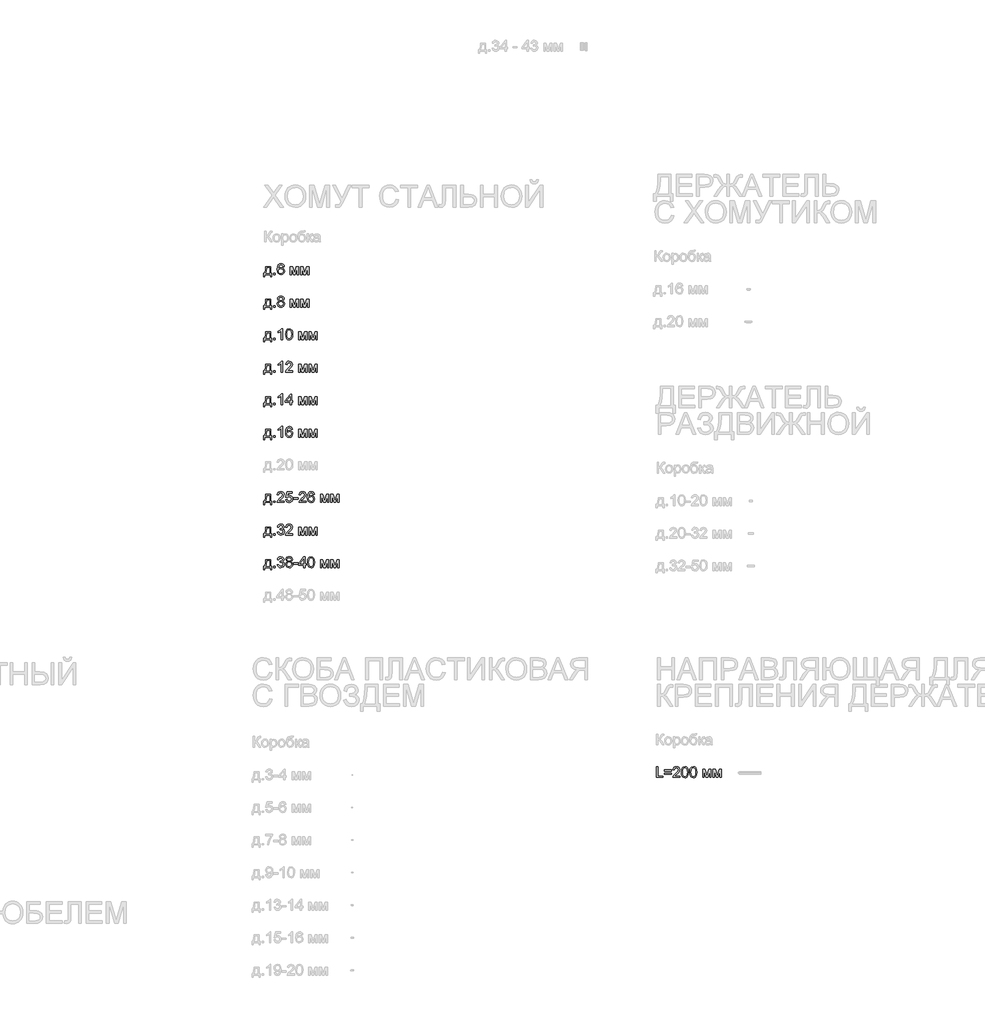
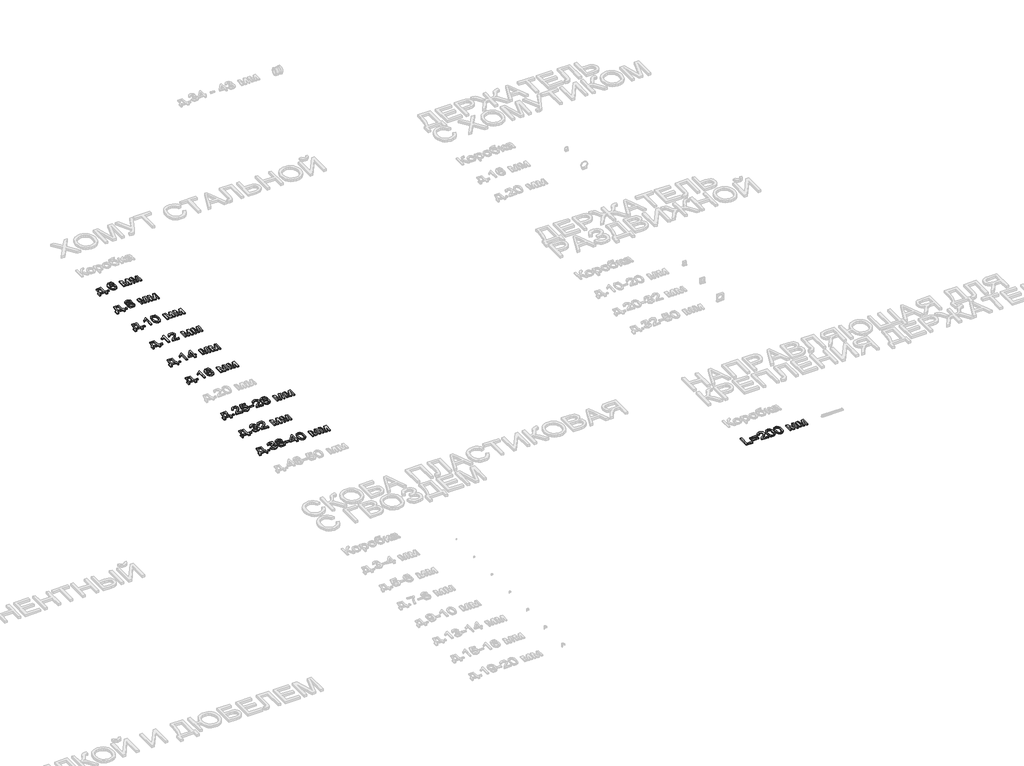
# One storey, part 48 of 98: 10 proxies.
"""IFC4 building model written with IfcOpenShell, lengths in millimetres."""

from ifc_helpers import new_model, si_unit, origin, origin_with_axes, place, context, project, spatial, polyline, outline, extrude, element, save

model = new_model("IFC4")

# Units and contexts
model_context = context("Model", 3, world=origin())
ifc_project = project(units=[si_unit("LENGTHUNIT", "METRE", prefix="MILLI")], contexts=[model_context])

# Site, building, storey
site = spatial("IfcSite", under=ifc_project)
building = spatial("IfcBuilding", under=site)
storey = spatial("IfcBuildingStorey", under=building, Name="Этаж 01", Elevation=0.0)

# Proxies
placement = place(None, origin())
element("IfcBuildingElementProxy", 1, Name="100", ObjectType="100", at=placement, inside=storey, context=model_context, shape_type="SweptSolid", body=[
    extrude(outline(polyline([(16052.0758798, -36915.5625308), (16052.0758798, -36815.1062206), (16064.6329186, -36815.1062206), (16064.6329186, -36903.005492), (16114.8610736, -36903.005492), (16114.8610736, -36915.5625308), (16052.0758798, -36915.5625308)])), origin_with_axes(), (0.0, 0.0, 1.0), 10.0),
    extrude(outline(polyline([(16191.7729361, -36887.3091935), (16125.8484826, -36887.3091935), (16125.8484826, -36874.7521548), (16191.7729361, -36874.7521548), (16191.7729361, -36887.3091935)])), origin_with_axes(), (0.0, 0.0, 1.0), 10.0),
    extrude(outline(polyline([(16191.7729361, -36857.4862265), (16125.8484826, -36857.4862265), (16125.8484826, -36844.9291877), (16191.7729361, -36844.9291877), (16191.7729361, -36857.4862265)])), origin_with_axes(), (0.0, 0.0, 1.0), 10.0),
    extrude(outline(polyline([(16270.2544284, -36903.005492), (16270.2544284, -36915.5625308), (16204.3299749, -36915.5625308), (16205.6788755, -36906.9050411), (16213.3062955, -36893.5754502), (16229.0271195, -36879.0195859), (16250.7076317, -36858.0993631), (16256.1277598, -36843.8745926), (16251.0142001, -36832.3598862), (16237.6600836, -36827.6632594), (16223.7418815, -36832.2495216), (16218.4566435, -36844.9291877), (16205.8996047, -36843.3595578), (16208.9438282, -36831.2133206), (16215.5258502, -36822.3412332), (16225.3023143, -36816.9149738), (16237.9298638, -36815.1062206), (16250.6493837, -36817.1173089), (16260.4074537, -36823.1505736), (16266.6154623, -36832.1636825), (16268.6847986, -36843.1143032), (16266.4529811, -36855.0214171), (16259.0340275, -36867.3332012), (16241.044598, -36884.5378158), (16226.5990983, -36896.616608), (16220.9337156, -36903.005492), (16270.2544284, -36903.005492)])), origin_with_axes(), (0.0, 0.0, 1.0), 10.0),
    extrude(outline(polyline([(16282.8114672, -36866.1437161), (16286.5025499, -36837.240454), (16297.4654333, -36820.5753996), (16315.7736939, -36815.1062206), (16330.4399228, -36818.3435822), (16340.5689404, -36827.6755221), (16346.4550523, -36842.5379547), (16348.7359207, -36866.1437161), (16345.0816262, -36894.9243508), (16334.155531, -36911.6261934), (16325.9241713, -36915.7556688), (16315.7736939, -36917.1321606), (16302.7261458, -36914.7409276), (16292.8178574, -36907.5672287), (16285.3130647, -36890.5772119), (16282.8114672, -36866.1437161)]), holes=[polyline([(16295.3685059, -36866.1191906), (16296.8400339, -36885.8713881), (16301.2546179, -36897.3033211), (16307.8274428, -36902.7571717), (16315.7736939, -36904.5751218), (16323.719945, -36902.7510403), (16330.29277, -36897.2787956), (16334.707354, -36885.8407312), (16336.1788819, -36866.1191906), (16334.7564049, -36846.8115172), (16330.4889737, -36835.2906794), (16323.9284115, -36829.5701144), (16315.6265411, -36827.6632594), (16307.7661292, -36829.3432538), (16301.4508216, -36834.3832372), (16296.8890848, -36846.6214449), (16295.3685059, -36866.1191906)])]), origin_with_axes(), (0.0, 0.0, 1.0), 10.0),
    extrude(outline(polyline([(16359.7233296, -36866.1437161), (16363.4144123, -36837.240454), (16374.3772958, -36820.5753996), (16392.6855564, -36815.1062206), (16407.3517853, -36818.3435822), (16417.4808029, -36827.6755221), (16423.3669148, -36842.5379547), (16425.6477832, -36866.1437161), (16421.9934887, -36894.9243508), (16411.0673934, -36911.6261934), (16402.8360338, -36915.7556688), (16392.6855564, -36917.1321606), (16379.6380083, -36914.7409276), (16369.7297199, -36907.5672287), (16362.2249272, -36890.5772119), (16359.7233296, -36866.1437161)]), holes=[polyline([(16372.2803684, -36866.1191906), (16373.7518964, -36885.8713881), (16378.1664803, -36897.3033211), (16384.7393053, -36902.7571717), (16392.6855564, -36904.5751218), (16400.6318075, -36902.7510403), (16407.2046325, -36897.2787956), (16411.6192164, -36885.8407312), (16413.0907444, -36866.1191906), (16411.6682673, -36846.8115172), (16407.4008362, -36835.2906794), (16400.840274, -36829.5701144), (16392.5384036, -36827.6632594), (16384.6779916, -36829.3432538), (16378.362684, -36834.3832372), (16373.8009473, -36846.6214449), (16372.2803684, -36866.1191906)])]), origin_with_axes(), (0.0, 0.0, 1.0), 10.0),
    extrude(outline(polyline([(16479.0151979, -36841.789928), (16500.6221338, -36841.789928), (16517.2749254, -36900.847251), (16535.2275668, -36841.789928), (16555.9270604, -36841.789928), (16555.9270604, -36915.5625308), (16543.3700216, -36915.5625308), (16543.3700216, -36856.1618513), (16525.3192784, -36915.5625308), (16508.838165, -36915.5625308), (16491.5722367, -36853.3168972), (16491.5722367, -36915.5625308), (16479.0151979, -36915.5625308), (16479.0151979, -36841.789928)])), origin_with_axes(), (0.0, 0.0, 1.0), 10.0),
    extrude(outline(polyline([(16574.7626185, -36841.789928), (16596.3695544, -36841.789928), (16613.022346, -36900.847251), (16630.9749874, -36841.789928), (16651.674481, -36841.789928), (16651.674481, -36915.5625308), (16639.1174422, -36915.5625308), (16639.1174422, -36856.1618513), (16621.066699, -36915.5625308), (16604.5855856, -36915.5625308), (16587.3196573, -36853.3168972), (16587.3196573, -36915.5625308), (16574.7626185, -36915.5625308), (16574.7626185, -36841.789928)])), origin_with_axes(), (0.0, 0.0, 1.0), 10.0),
])
element("IfcBuildingElementProxy", 2, Name="100", ObjectType="100", at=placement, inside=storey, context=model_context, shape_type="SweptSolid", body=[
    extrude(outline(polyline([(12451.0393687, -32807.7143815), (12498.1282641, -32807.7143815), (12498.1282641, -32868.9299455), (12507.5460431, -32868.9299455), (12507.5460431, -32901.8921723), (12494.9890044, -32901.8921723), (12494.9890044, -32881.4869843), (12443.1912195, -32881.4869843), (12443.1912195, -32901.8921723), (12430.6341807, -32901.8921723), (12430.6341807, -32868.9299455), (12438.4823299, -32868.9299455), (12448.1821519, -32844.9808276), (12451.0393687, -32807.7143815)]), holes=[polyline([(12462.0267776, -32820.2714203), (12459.0837216, -32848.8803768), (12452.6089985, -32868.9299455), (12485.5712253, -32868.9299455), (12485.5712253, -32820.2714203), (12462.0267776, -32820.2714203)])]), origin_with_axes(), (0.0, 0.0, 1.0), 10.0),
    extrude(outline(polyline([(12524.8119715, -32881.4869843), (12524.8119715, -32868.9299455), (12537.3690102, -32868.9299455), (12537.3690102, -32881.4869843), (12524.8119715, -32881.4869843)])), origin_with_axes(), (0.0, 0.0, 1.0), 10.0),
    extrude(outline(polyline([(12604.8630936, -32881.4869843), (12592.3060548, -32881.4869843), (12592.3060548, -32803.2016957), (12580.4112037, -32811.6752444), (12567.1919773, -32818.0150774), (12567.1919773, -32806.1447517), (12585.5983398, -32794.3970533), (12596.7696897, -32781.0306742), (12604.8630936, -32781.0306742), (12604.8630936, -32881.4869843)])), origin_with_axes(), (0.0, 0.0, 1.0), 10.0),
    extrude(outline(polyline([(12634.6860607, -32832.0681696), (12638.3771434, -32803.1649075), (12649.3400268, -32786.4998531), (12667.6482874, -32781.0306742), (12682.3145163, -32784.2680357), (12692.4435339, -32793.5999757), (12698.3296458, -32808.4624083), (12700.6105142, -32832.0681696), (12696.9562197, -32860.8488044), (12686.0301245, -32877.550647), (12677.7987648, -32881.6801224), (12667.6482874, -32883.0566141), (12654.6007393, -32880.6653812), (12644.6924509, -32873.4916823), (12637.1876582, -32856.5016655), (12634.6860607, -32832.0681696)]), holes=[polyline([(12647.2430994, -32832.0436442), (12648.7146274, -32851.7958416), (12653.1292114, -32863.2277746), (12659.7020363, -32868.6816252), (12667.6482874, -32870.4995754), (12675.5945385, -32868.6754938), (12682.1673635, -32863.2032491), (12686.5819475, -32851.7651848), (12688.0534754, -32832.0436442), (12686.6309984, -32812.7359708), (12682.3635673, -32801.215133), (12675.803005, -32795.4945679), (12667.5011346, -32793.5877129), (12659.6407227, -32795.2677074), (12653.3254151, -32800.3076907), (12648.7636784, -32812.5458984), (12647.2430994, -32832.0436442)])]), origin_with_axes(), (0.0, 0.0, 1.0), 10.0),
    extrude(outline(polyline([(12753.977929, -32807.7143815), (12775.5848648, -32807.7143815), (12792.2376565, -32866.7717045), (12810.1902978, -32807.7143815), (12830.8897914, -32807.7143815), (12830.8897914, -32881.4869843), (12818.3327527, -32881.4869843), (12818.3327527, -32822.0863048), (12800.2820094, -32881.4869843), (12783.8008961, -32881.4869843), (12766.5349677, -32819.2413507), (12766.5349677, -32881.4869843), (12753.977929, -32881.4869843), (12753.977929, -32807.7143815)])), origin_with_axes(), (0.0, 0.0, 1.0), 10.0),
    extrude(outline(polyline([(12849.7253496, -32807.7143815), (12871.3322854, -32807.7143815), (12887.9850771, -32866.7717045), (12905.9377185, -32807.7143815), (12926.637212, -32807.7143815), (12926.637212, -32881.4869843), (12914.0801733, -32881.4869843), (12914.0801733, -32822.0863048), (12896.0294301, -32881.4869843), (12879.5483167, -32881.4869843), (12862.2823884, -32819.2413507), (12862.2823884, -32881.4869843), (12849.7253496, -32881.4869843), (12849.7253496, -32807.7143815)])), origin_with_axes(), (0.0, 0.0, 1.0), 10.0),
])
element("IfcBuildingElementProxy", 3, Name="100", ObjectType="100", at=placement, inside=storey, context=model_context, shape_type="SweptSolid", body=[
    extrude(outline(polyline([(12451.0393687, -33107.7143815), (12498.1282641, -33107.7143815), (12498.1282641, -33168.9299455), (12507.5460431, -33168.9299455), (12507.5460431, -33201.8921723), (12494.9890044, -33201.8921723), (12494.9890044, -33181.4869843), (12443.1912195, -33181.4869843), (12443.1912195, -33201.8921723), (12430.6341807, -33201.8921723), (12430.6341807, -33168.9299455), (12438.4823299, -33168.9299455), (12448.1821519, -33144.9808276), (12451.0393687, -33107.7143815)]), holes=[polyline([(12462.0267776, -33120.2714203), (12459.0837216, -33148.8803768), (12452.6089985, -33168.9299455), (12485.5712253, -33168.9299455), (12485.5712253, -33120.2714203), (12462.0267776, -33120.2714203)])]), origin_with_axes(), (0.0, 0.0, 1.0), 10.0),
    extrude(outline(polyline([(12524.8119715, -33181.4869843), (12524.8119715, -33168.9299455), (12537.3690102, -33168.9299455), (12537.3690102, -33181.4869843), (12524.8119715, -33181.4869843)])), origin_with_axes(), (0.0, 0.0, 1.0), 10.0),
    extrude(outline(polyline([(12604.8630936, -33181.4869843), (12592.3060548, -33181.4869843), (12592.3060548, -33103.2016957), (12580.4112037, -33111.6752444), (12567.1919773, -33118.0150774), (12567.1919773, -33106.1447517), (12585.5983398, -33094.3970533), (12596.7696897, -33081.0306742), (12604.8630936, -33081.0306742), (12604.8630936, -33181.4869843)])), origin_with_axes(), (0.0, 0.0, 1.0), 10.0),
    extrude(outline(polyline([(12699.0408844, -33168.9299455), (12699.0408844, -33181.4869843), (12633.1164308, -33181.4869843), (12634.4653315, -33172.8294947), (12642.0927515, -33159.4999037), (12657.8135754, -33144.9440394), (12679.4940877, -33124.0238167), (12684.9142158, -33109.7990462), (12679.800656, -33098.2843397), (12666.4465396, -33093.5877129), (12652.5283374, -33098.1739751), (12647.2430994, -33110.8536412), (12634.6860607, -33109.2840114), (12637.7302842, -33097.1377742), (12644.3123062, -33088.2656867), (12654.0887702, -33082.8394273), (12666.7163197, -33081.0306742), (12679.4358397, -33083.0417624), (12689.1939096, -33089.0750271), (12695.4019183, -33098.088136), (12697.4712545, -33109.0387567), (12695.2394371, -33120.9458706), (12687.8204835, -33133.2576547), (12669.8310539, -33150.4622694), (12655.3855543, -33162.5410616), (12649.7201715, -33168.9299455), (12699.0408844, -33168.9299455)])), origin_with_axes(), (0.0, 0.0, 1.0), 10.0),
    extrude(outline(polyline([(12753.977929, -33107.7143815), (12775.5848648, -33107.7143815), (12792.2376565, -33166.7717045), (12810.1902978, -33107.7143815), (12830.8897914, -33107.7143815), (12830.8897914, -33181.4869843), (12818.3327527, -33181.4869843), (12818.3327527, -33122.0863048), (12800.2820094, -33181.4869843), (12783.8008961, -33181.4869843), (12766.5349677, -33119.2413507), (12766.5349677, -33181.4869843), (12753.977929, -33181.4869843), (12753.977929, -33107.7143815)])), origin_with_axes(), (0.0, 0.0, 1.0), 10.0),
    extrude(outline(polyline([(12849.7253496, -33107.7143815), (12871.3322854, -33107.7143815), (12887.9850771, -33166.7717045), (12905.9377185, -33107.7143815), (12926.637212, -33107.7143815), (12926.637212, -33181.4869843), (12914.0801733, -33181.4869843), (12914.0801733, -33122.0863048), (12896.0294301, -33181.4869843), (12879.5483167, -33181.4869843), (12862.2823884, -33119.2413507), (12862.2823884, -33181.4869843), (12849.7253496, -33181.4869843), (12849.7253496, -33107.7143815)])), origin_with_axes(), (0.0, 0.0, 1.0), 10.0),
])
element("IfcBuildingElementProxy", 4, Name="100", ObjectType="100", at=placement, inside=storey, context=model_context, shape_type="SweptSolid", body=[
    extrude(outline(polyline([(12451.0393687, -33407.7143815), (12498.1282641, -33407.7143815), (12498.1282641, -33468.9299455), (12507.5460431, -33468.9299455), (12507.5460431, -33501.8921723), (12494.9890044, -33501.8921723), (12494.9890044, -33481.4869843), (12443.1912195, -33481.4869843), (12443.1912195, -33501.8921723), (12430.6341807, -33501.8921723), (12430.6341807, -33468.9299455), (12438.4823299, -33468.9299455), (12448.1821519, -33444.9808276), (12451.0393687, -33407.7143815)]), holes=[polyline([(12462.0267776, -33420.2714203), (12459.0837216, -33448.8803768), (12452.6089985, -33468.9299455), (12485.5712253, -33468.9299455), (12485.5712253, -33420.2714203), (12462.0267776, -33420.2714203)])]), origin_with_axes(), (0.0, 0.0, 1.0), 10.0),
    extrude(outline(polyline([(12524.8119715, -33481.4869843), (12524.8119715, -33468.9299455), (12537.3690102, -33468.9299455), (12537.3690102, -33481.4869843), (12524.8119715, -33481.4869843)])), origin_with_axes(), (0.0, 0.0, 1.0), 10.0),
    extrude(outline(polyline([(12604.8630936, -33481.4869843), (12592.3060548, -33481.4869843), (12592.3060548, -33403.2016957), (12580.4112037, -33411.6752444), (12567.1919773, -33418.0150774), (12567.1919773, -33406.1447517), (12585.5983398, -33394.3970533), (12596.7696897, -33381.0306742), (12604.8630936, -33381.0306742), (12604.8630936, -33481.4869843)])), origin_with_axes(), (0.0, 0.0, 1.0), 10.0),
    extrude(outline(polyline([(12675.4964367, -33481.4869843), (12675.4964367, -33457.9425366), (12629.9771711, -33457.9425366), (12629.9771711, -33445.3854978), (12678.6356964, -33382.600304), (12688.0534754, -33382.600304), (12688.0534754, -33445.3854978), (12700.6105142, -33445.3854978), (12700.6105142, -33457.9425366), (12688.0534754, -33457.9425366), (12688.0534754, -33481.4869843), (12675.4964367, -33481.4869843)]), holes=[polyline([(12675.4964367, -33445.3854978), (12675.4964367, -33406.5862101), (12645.4282149, -33445.3854978), (12675.4964367, -33445.3854978)])]), origin_with_axes(), (0.0, 0.0, 1.0), 10.0),
    extrude(outline(polyline([(12753.977929, -33407.7143815), (12775.5848648, -33407.7143815), (12792.2376565, -33466.7717045), (12810.1902978, -33407.7143815), (12830.8897914, -33407.7143815), (12830.8897914, -33481.4869843), (12818.3327527, -33481.4869843), (12818.3327527, -33422.0863048), (12800.2820094, -33481.4869843), (12783.8008961, -33481.4869843), (12766.5349677, -33419.2413507), (12766.5349677, -33481.4869843), (12753.977929, -33481.4869843), (12753.977929, -33407.7143815)])), origin_with_axes(), (0.0, 0.0, 1.0), 10.0),
    extrude(outline(polyline([(12849.7253496, -33407.7143815), (12871.3322854, -33407.7143815), (12887.9850771, -33466.7717045), (12905.9377185, -33407.7143815), (12926.637212, -33407.7143815), (12926.637212, -33481.4869843), (12914.0801733, -33481.4869843), (12914.0801733, -33422.0863048), (12896.0294301, -33481.4869843), (12879.5483167, -33481.4869843), (12862.2823884, -33419.2413507), (12862.2823884, -33481.4869843), (12849.7253496, -33481.4869843), (12849.7253496, -33407.7143815)])), origin_with_axes(), (0.0, 0.0, 1.0), 10.0),
])
element("IfcBuildingElementProxy", 5, Name="100", ObjectType="100", at=placement, inside=storey, context=model_context, shape_type="SweptSolid", body=[
    extrude(outline(polyline([(12451.0393687, -33707.7143815), (12498.1282641, -33707.7143815), (12498.1282641, -33768.9299455), (12507.5460431, -33768.9299455), (12507.5460431, -33801.8921723), (12494.9890044, -33801.8921723), (12494.9890044, -33781.4869843), (12443.1912195, -33781.4869843), (12443.1912195, -33801.8921723), (12430.6341807, -33801.8921723), (12430.6341807, -33768.9299455), (12438.4823299, -33768.9299455), (12448.1821519, -33744.9808276), (12451.0393687, -33707.7143815)]), holes=[polyline([(12462.0267776, -33720.2714203), (12459.0837216, -33748.8803768), (12452.6089985, -33768.9299455), (12485.5712253, -33768.9299455), (12485.5712253, -33720.2714203), (12462.0267776, -33720.2714203)])]), origin_with_axes(), (0.0, 0.0, 1.0), 10.0),
    extrude(outline(polyline([(12524.8119715, -33781.4869843), (12524.8119715, -33768.9299455), (12537.3690102, -33768.9299455), (12537.3690102, -33781.4869843), (12524.8119715, -33781.4869843)])), origin_with_axes(), (0.0, 0.0, 1.0), 10.0),
    extrude(outline(polyline([(12604.8630936, -33781.4869843), (12592.3060548, -33781.4869843), (12592.3060548, -33703.2016957), (12580.4112037, -33711.6752444), (12567.1919773, -33718.0150774), (12567.1919773, -33706.1447517), (12585.5983398, -33694.3970533), (12596.7696897, -33681.0306742), (12604.8630936, -33681.0306742), (12604.8630936, -33781.4869843)])), origin_with_axes(), (0.0, 0.0, 1.0), 10.0),
    extrude(outline(polyline([(12699.0408844, -33707.7143815), (12686.4838456, -33709.2840114), (12681.7259051, -33698.8116373), (12669.1443409, -33693.5877129), (12657.8135754, -33696.6288707), (12649.241925, -33708.0454753), (12645.6734696, -33730.4249634), (12656.7467177, -33720.4063104), (12670.4687161, -33717.1321606), (12682.0692617, -33719.3701094), (12691.8058718, -33726.0839558), (12698.4093536, -33736.3417321), (12700.6105142, -33749.2114706), (12696.4657104, -33766.5387126), (12685.0613685, -33778.8014457), (12668.6047806, -33783.0566141), (12654.3585504, -33780.2361855), (12643.0124565, -33771.7748996), (12635.5904372, -33756.8388906), (12633.1164308, -33734.5942927), (12635.8632831, -33709.5844483), (12644.1038398, -33692.4840669), (12655.3548974, -33683.8940223), (12669.9291558, -33681.0306742), (12680.9472216, -33682.8026391), (12689.7702581, -33688.1185339), (12695.9506756, -33696.5614257), (12699.0408844, -33707.7143815)]), holes=[polyline([(12645.6734696, -33749.0152669), (12648.5797374, -33759.8923112), (12656.3052593, -33767.7895113), (12667.623762, -33770.4995754), (12675.9103039, -33769.0954924), (12682.4248809, -33764.8832436), (12686.6463268, -33758.2613677), (12688.0534754, -33749.6284035), (12686.6647209, -33741.3418616), (12682.4984573, -33735.0234883), (12675.8735157, -33731.0227716), (12667.1087272, -33729.6891994), (12651.9152008, -33735.0234883), (12647.2339024, -33741.1885774), (12645.6734696, -33749.0152669)])]), origin_with_axes(), (0.0, 0.0, 1.0), 10.0),
    extrude(outline(polyline([(12753.977929, -33707.7143815), (12775.5848648, -33707.7143815), (12792.2376565, -33766.7717045), (12810.1902978, -33707.7143815), (12830.8897914, -33707.7143815), (12830.8897914, -33781.4869843), (12818.3327527, -33781.4869843), (12818.3327527, -33722.0863048), (12800.2820094, -33781.4869843), (12783.8008961, -33781.4869843), (12766.5349677, -33719.2413507), (12766.5349677, -33781.4869843), (12753.977929, -33781.4869843), (12753.977929, -33707.7143815)])), origin_with_axes(), (0.0, 0.0, 1.0), 10.0),
    extrude(outline(polyline([(12849.7253496, -33707.7143815), (12871.3322854, -33707.7143815), (12887.9850771, -33766.7717045), (12905.9377185, -33707.7143815), (12926.637212, -33707.7143815), (12926.637212, -33781.4869843), (12914.0801733, -33781.4869843), (12914.0801733, -33722.0863048), (12896.0294301, -33781.4869843), (12879.5483167, -33781.4869843), (12862.2823884, -33719.2413507), (12862.2823884, -33781.4869843), (12849.7253496, -33781.4869843), (12849.7253496, -33707.7143815)])), origin_with_axes(), (0.0, 0.0, 1.0), 10.0),
])
element("IfcBuildingElementProxy", 6, Name="100", ObjectType="100", at=placement, inside=storey, context=model_context, shape_type="SweptSolid", body=[
    extrude(outline(polyline([(12451.0393687, -34307.7143815), (12498.1282641, -34307.7143815), (12498.1282641, -34368.9299455), (12507.5460431, -34368.9299455), (12507.5460431, -34401.8921723), (12494.9890044, -34401.8921723), (12494.9890044, -34381.4869843), (12443.1912195, -34381.4869843), (12443.1912195, -34401.8921723), (12430.6341807, -34401.8921723), (12430.6341807, -34368.9299455), (12438.4823299, -34368.9299455), (12448.1821519, -34344.9808276), (12451.0393687, -34307.7143815)]), holes=[polyline([(12462.0267776, -34320.2714203), (12459.0837216, -34348.8803768), (12452.6089985, -34368.9299455), (12485.5712253, -34368.9299455), (12485.5712253, -34320.2714203), (12462.0267776, -34320.2714203)])]), origin_with_axes(), (0.0, 0.0, 1.0), 10.0),
    extrude(outline(polyline([(12524.8119715, -34381.4869843), (12524.8119715, -34368.9299455), (12537.3690102, -34368.9299455), (12537.3690102, -34381.4869843), (12524.8119715, -34381.4869843)])), origin_with_axes(), (0.0, 0.0, 1.0), 10.0),
    extrude(outline(polyline([(12622.1290219, -34368.9299455), (12622.1290219, -34381.4869843), (12556.2045684, -34381.4869843), (12557.553469, -34372.8294947), (12565.1808891, -34359.4999037), (12580.901713, -34344.9440394), (12602.5822252, -34324.0238167), (12608.0023533, -34309.7990462), (12602.8887936, -34298.2843397), (12589.5346771, -34293.5877129), (12575.616475, -34298.1739751), (12570.331237, -34310.8536412), (12557.7741982, -34309.2840114), (12560.8184217, -34297.1377742), (12567.4004438, -34288.2656867), (12577.1769078, -34282.8394273), (12589.8044573, -34281.0306742), (12602.5239772, -34283.0417624), (12612.2820472, -34289.0750271), (12618.4900558, -34298.088136), (12620.5593921, -34309.0387567), (12618.3275746, -34320.9458706), (12610.9086211, -34333.2576547), (12592.9191915, -34350.4622694), (12578.4736918, -34362.5410616), (12572.8083091, -34368.9299455), (12622.1290219, -34368.9299455)])), origin_with_axes(), (0.0, 0.0, 1.0), 10.0),
    extrude(outline(polyline([(12634.6860607, -34354.8032769), (12647.2430994, -34353.2336471), (12653.5706698, -34366.1708306), (12666.6917943, -34370.4995754), (12675.6926404, -34368.9943249), (12682.4371437, -34364.4785734), (12686.6493925, -34357.4734871), (12688.0534754, -34348.5002321), (12682.7927629, -34333.5887485), (12676.1862154, -34329.4868643), (12666.887998, -34328.1195695), (12655.8638009, -34330.302336), (12648.8127293, -34335.9677188), (12636.2556905, -34334.3980889), (12647.2430994, -34282.600304), (12695.9016247, -34282.600304), (12695.9016247, -34295.1573428), (12657.3966425, -34295.1573428), (12652.0255654, -34322.8220688), (12660.9957547, -34317.3774153), (12670.3951397, -34315.5625308), (12682.1275096, -34317.8127423), (12691.8671855, -34324.5633769), (12698.424682, -34334.85181), (12700.6105142, -34347.7154171), (12698.6423455, -34360.2724559), (12692.7378395, -34371.0146102), (12681.4315995, -34380.0461132), (12666.6427433, -34383.0566141), (12654.3094994, -34381.122168), (12644.4839845, -34375.3188295), (12637.7486783, -34366.3210491), (12634.6860607, -34354.8032769)])), origin_with_axes(), (0.0, 0.0, 1.0), 10.0),
    extrude(outline(polyline([(12708.4586634, -34351.6640172), (12708.4586634, -34339.1069785), (12747.6994096, -34339.1069785), (12747.6994096, -34351.6640172), (12708.4586634, -34351.6640172)])), origin_with_axes(), (0.0, 0.0, 1.0), 10.0),
    extrude(outline(polyline([(12823.0416422, -34368.9299455), (12823.0416422, -34381.4869843), (12757.1171887, -34381.4869843), (12758.4660893, -34372.8294947), (12766.0935094, -34359.4999037), (12781.8143333, -34344.9440394), (12803.4948455, -34324.0238167), (12808.9149736, -34309.7990462), (12803.8014139, -34298.2843397), (12790.4472974, -34293.5877129), (12776.5290953, -34298.1739751), (12771.2438573, -34310.8536412), (12758.6868185, -34309.2840114), (12761.731042, -34297.1377742), (12768.3130641, -34288.2656867), (12778.0895281, -34282.8394273), (12790.7170776, -34281.0306742), (12803.4365975, -34283.0417624), (12813.1946675, -34289.0750271), (12819.4026761, -34298.088136), (12821.4720124, -34309.0387567), (12819.2401949, -34320.9458706), (12811.8212414, -34333.2576547), (12793.8318118, -34350.4622694), (12779.3863121, -34362.5410616), (12773.7209294, -34368.9299455), (12823.0416422, -34368.9299455)])), origin_with_axes(), (0.0, 0.0, 1.0), 10.0),
    extrude(outline(polyline([(12899.9535047, -34307.7143815), (12887.3964659, -34309.2840114), (12882.6385254, -34298.8116373), (12870.0569612, -34293.5877129), (12858.7261957, -34296.6288707), (12850.1545453, -34308.0454753), (12846.5860899, -34330.4249634), (12857.659338, -34320.4063104), (12871.3813364, -34317.1321606), (12882.981882, -34319.3701094), (12892.7184921, -34326.0839558), (12899.3219739, -34336.3417321), (12901.5231345, -34349.2114706), (12897.3783307, -34366.5387126), (12885.9739888, -34378.8014457), (12869.5174009, -34383.0566141), (12855.2711707, -34380.2361855), (12843.9250768, -34371.7748996), (12836.5030575, -34356.8388906), (12834.0290511, -34334.5942927), (12836.7759034, -34309.5844483), (12845.0164601, -34292.4840669), (12856.2675177, -34283.8940223), (12870.8417761, -34281.0306742), (12881.8598419, -34282.8026391), (12890.6828784, -34288.1185339), (12896.8632959, -34296.5614257), (12899.9535047, -34307.7143815)]), holes=[polyline([(12846.5860899, -34349.0152669), (12849.4923577, -34359.8923112), (12857.2178796, -34367.7895113), (12868.5363823, -34370.4995754), (12876.8229242, -34369.0954924), (12883.3375012, -34364.8832436), (12887.5589471, -34358.2613677), (12888.9660957, -34349.6284035), (12887.5773412, -34341.3418616), (12883.4110776, -34335.0234883), (12876.786136, -34331.0227716), (12868.0213475, -34329.6891994), (12852.8278211, -34335.0234883), (12848.1465227, -34341.1885774), (12846.5860899, -34349.0152669)])]), origin_with_axes(), (0.0, 0.0, 1.0), 10.0),
    extrude(outline(polyline([(12954.8905493, -34307.7143815), (12976.4974851, -34307.7143815), (12993.1502768, -34366.7717045), (13011.1029181, -34307.7143815), (13031.8024117, -34307.7143815), (13031.8024117, -34381.4869843), (13019.245373, -34381.4869843), (13019.245373, -34322.0863048), (13001.1946297, -34381.4869843), (12984.7135164, -34381.4869843), (12967.447588, -34319.2413507), (12967.447588, -34381.4869843), (12954.8905493, -34381.4869843), (12954.8905493, -34307.7143815)])), origin_with_axes(), (0.0, 0.0, 1.0), 10.0),
    extrude(outline(polyline([(13050.6379699, -34307.7143815), (13072.2449057, -34307.7143815), (13088.8976974, -34366.7717045), (13106.8503388, -34307.7143815), (13127.5498323, -34307.7143815), (13127.5498323, -34381.4869843), (13114.9927936, -34381.4869843), (13114.9927936, -34322.0863048), (13096.9420503, -34381.4869843), (13080.460937, -34381.4869843), (13063.1950087, -34319.2413507), (13063.1950087, -34381.4869843), (13050.6379699, -34381.4869843), (13050.6379699, -34307.7143815)])), origin_with_axes(), (0.0, 0.0, 1.0), 10.0),
])
element("IfcBuildingElementProxy", 7, Name="100", ObjectType="100", at=placement, inside=storey, context=model_context, shape_type="SweptSolid", body=[
    extrude(outline(polyline([(12451.0393687, -34607.7143815), (12498.1282641, -34607.7143815), (12498.1282641, -34668.9299455), (12507.5460431, -34668.9299455), (12507.5460431, -34701.8921723), (12494.9890044, -34701.8921723), (12494.9890044, -34681.4869843), (12443.1912195, -34681.4869843), (12443.1912195, -34701.8921723), (12430.6341807, -34701.8921723), (12430.6341807, -34668.9299455), (12438.4823299, -34668.9299455), (12448.1821519, -34644.9808276), (12451.0393687, -34607.7143815)]), holes=[polyline([(12462.0267776, -34620.2714203), (12459.0837216, -34648.8803768), (12452.6089985, -34668.9299455), (12485.5712253, -34668.9299455), (12485.5712253, -34620.2714203), (12462.0267776, -34620.2714203)])]), origin_with_axes(), (0.0, 0.0, 1.0), 10.0),
    extrude(outline(polyline([(12524.8119715, -34681.4869843), (12524.8119715, -34668.9299455), (12537.3690102, -34668.9299455), (12537.3690102, -34681.4869843), (12524.8119715, -34681.4869843)])), origin_with_axes(), (0.0, 0.0, 1.0), 10.0),
    extrude(outline(polyline([(12557.7741982, -34654.8032769), (12570.331237, -34653.2336471), (12577.2596812, -34666.4528734), (12590.2213902, -34670.4995754), (12598.8298289, -34669.1077552), (12605.4762303, -34664.9322945), (12611.141613, -34651.1489824), (12605.5252812, -34638.162748), (12591.2514598, -34633.0246628), (12582.4468174, -34634.3980889), (12583.8447689, -34621.8410502), (12585.8558572, -34621.988203), (12600.1051531, -34618.3829594), (12604.8508309, -34613.8089599), (12606.4327234, -34607.2974486), (12601.8464612, -34597.4749993), (12590.0251865, -34593.5877129), (12578.0567589, -34597.5117875), (12571.9008668, -34609.2840114), (12559.3438281, -34607.7143815), (12563.0410421, -34596.4387984), (12569.6199985, -34588.0204321), (12578.6208446, -34582.7781136), (12589.5837281, -34581.0306742), (12604.7282035, -34584.4765022), (12615.323205, -34593.8942813), (12618.9897622, -34606.5616846), (12615.507146, -34618.1377047), (12605.2064501, -34626.4518378), (12618.8916604, -34635.035751), (12623.6986518, -34651.3697116), (12621.2951561, -34663.6079193), (12614.0846689, -34673.8350388), (12603.2014933, -34680.7512203), (12589.7799318, -34683.0566141), (12577.639826, -34681.0884455), (12567.756063, -34675.1839395), (12560.8828011, -34666.1524365), (12557.7741982, -34654.8032769)])), origin_with_axes(), (0.0, 0.0, 1.0), 10.0),
    extrude(outline(polyline([(12699.0408844, -34668.9299455), (12699.0408844, -34681.4869843), (12633.1164308, -34681.4869843), (12634.4653315, -34672.8294947), (12642.0927515, -34659.4999037), (12657.8135754, -34644.9440394), (12679.4940877, -34624.0238167), (12684.9142158, -34609.7990462), (12679.800656, -34598.2843397), (12666.4465396, -34593.5877129), (12652.5283374, -34598.1739751), (12647.2430994, -34610.8536412), (12634.6860607, -34609.2840114), (12637.7302842, -34597.1377742), (12644.3123062, -34588.2656867), (12654.0887702, -34582.8394273), (12666.7163197, -34581.0306742), (12679.4358397, -34583.0417624), (12689.1939096, -34589.0750271), (12695.4019183, -34598.088136), (12697.4712545, -34609.0387567), (12695.2394371, -34620.9458706), (12687.8204835, -34633.2576547), (12669.8310539, -34650.4622694), (12655.3855543, -34662.5410616), (12649.7201715, -34668.9299455), (12699.0408844, -34668.9299455)])), origin_with_axes(), (0.0, 0.0, 1.0), 10.0),
    extrude(outline(polyline([(12753.977929, -34607.7143815), (12775.5848648, -34607.7143815), (12792.2376565, -34666.7717045), (12810.1902978, -34607.7143815), (12830.8897914, -34607.7143815), (12830.8897914, -34681.4869843), (12818.3327527, -34681.4869843), (12818.3327527, -34622.0863048), (12800.2820094, -34681.4869843), (12783.8008961, -34681.4869843), (12766.5349677, -34619.2413507), (12766.5349677, -34681.4869843), (12753.977929, -34681.4869843), (12753.977929, -34607.7143815)])), origin_with_axes(), (0.0, 0.0, 1.0), 10.0),
    extrude(outline(polyline([(12849.7253496, -34607.7143815), (12871.3322854, -34607.7143815), (12887.9850771, -34666.7717045), (12905.9377185, -34607.7143815), (12926.637212, -34607.7143815), (12926.637212, -34681.4869843), (12914.0801733, -34681.4869843), (12914.0801733, -34622.0863048), (12896.0294301, -34681.4869843), (12879.5483167, -34681.4869843), (12862.2823884, -34619.2413507), (12862.2823884, -34681.4869843), (12849.7253496, -34681.4869843), (12849.7253496, -34607.7143815)])), origin_with_axes(), (0.0, 0.0, 1.0), 10.0),
])
element("IfcBuildingElementProxy", 8, Name="100", ObjectType="100", at=placement, inside=storey, context=model_context, shape_type="SweptSolid", body=[
    extrude(outline(polyline([(12451.0393687, -34907.7143815), (12498.1282641, -34907.7143815), (12498.1282641, -34968.9299455), (12507.5460431, -34968.9299455), (12507.5460431, -35001.8921723), (12494.9890044, -35001.8921723), (12494.9890044, -34981.4869843), (12443.1912195, -34981.4869843), (12443.1912195, -35001.8921723), (12430.6341807, -35001.8921723), (12430.6341807, -34968.9299455), (12438.4823299, -34968.9299455), (12448.1821519, -34944.9808276), (12451.0393687, -34907.7143815)]), holes=[polyline([(12462.0267776, -34920.2714203), (12459.0837216, -34948.8803768), (12452.6089985, -34968.9299455), (12485.5712253, -34968.9299455), (12485.5712253, -34920.2714203), (12462.0267776, -34920.2714203)])]), origin_with_axes(), (0.0, 0.0, 1.0), 10.0),
    extrude(outline(polyline([(12524.8119715, -34981.4869843), (12524.8119715, -34968.9299455), (12537.3690102, -34968.9299455), (12537.3690102, -34981.4869843), (12524.8119715, -34981.4869843)])), origin_with_axes(), (0.0, 0.0, 1.0), 10.0),
    extrude(outline(polyline([(12557.7741982, -34954.8032769), (12570.331237, -34953.2336471), (12577.2596812, -34966.4528734), (12590.2213902, -34970.4995754), (12598.8298289, -34969.1077552), (12605.4762303, -34964.9322945), (12611.141613, -34951.1489824), (12605.5252812, -34938.162748), (12591.2514598, -34933.0246628), (12582.4468174, -34934.3980889), (12583.8447689, -34921.8410502), (12585.8558572, -34921.988203), (12600.1051531, -34918.3829594), (12604.8508309, -34913.8089599), (12606.4327234, -34907.2974486), (12601.8464612, -34897.4749993), (12590.0251865, -34893.5877129), (12578.0567589, -34897.5117875), (12571.9008668, -34909.2840114), (12559.3438281, -34907.7143815), (12563.0410421, -34896.4387984), (12569.6199985, -34888.0204321), (12578.6208446, -34882.7781136), (12589.5837281, -34881.0306742), (12604.7282035, -34884.4765022), (12615.323205, -34893.8942813), (12618.9897622, -34906.5616846), (12615.507146, -34918.1377047), (12605.2064501, -34926.4518378), (12618.8916604, -34935.035751), (12623.6986518, -34951.3697116), (12621.2951561, -34963.6079193), (12614.0846689, -34973.8350388), (12603.2014933, -34980.7512203), (12589.7799318, -34983.0566141), (12577.639826, -34981.0884455), (12567.756063, -34975.1839395), (12560.8828011, -34966.1524365), (12557.7741982, -34954.8032769)])), origin_with_axes(), (0.0, 0.0, 1.0), 10.0),
    extrude(outline(polyline([(12652.9820586, -34926.1575322), (12641.5409285, -34918.3584339), (12637.8253204, -34906.2183281), (12639.8486713, -34896.4020102), (12645.9187243, -34888.2902122), (12655.3548974, -34882.8455587), (12667.4766092, -34881.0306742), (12679.6718973, -34882.8884782), (12689.2306978, -34888.4618905), (12695.4111153, -34896.7024471), (12697.4712545, -34906.5616846), (12693.8046973, -34918.3952221), (12682.6823983, -34926.1575322), (12696.0365147, -34936.004507), (12700.6105142, -34952.2526284), (12698.3419086, -34964.2578442), (12691.5360917, -34974.1783953), (12681.0269293, -34980.8370594), (12667.6482874, -34983.0566141), (12654.2696456, -34980.8278624), (12643.7604832, -34974.1416071), (12636.9546663, -34964.1260198), (12634.6860607, -34951.9092719), (12639.4440011, -34935.2810057), (12652.9820586, -34926.1575322)]), holes=[polyline([(12647.2430994, -34951.4678135), (12649.3400268, -34960.9223808), (12656.7589804, -34967.9979778), (12667.7463893, -34970.4995754), (12676.2935143, -34969.1843972), (12682.7069238, -34965.2388629), (12688.0534754, -34951.860221), (12682.5352455, -34938.2240617), (12675.9746833, -34934.1773597), (12667.3294564, -34932.8284591), (12658.901893, -34934.1589656), (12652.5528629, -34938.1504853), (12647.2430994, -34951.4678135)]), polyline([(12650.3823591, -34906.5862101), (12654.8337313, -34916.4454476), (12667.7954402, -34920.2714203), (12680.4996318, -34916.469973), (12684.9142158, -34907.1502958), (12680.352479, -34897.4995248), (12667.6482874, -34893.5877129), (12654.9073077, -34897.4136857), (12650.3823591, -34906.5862101)])]), origin_with_axes(), (0.0, 0.0, 1.0), 10.0),
    extrude(outline(polyline([(12708.4586634, -34951.6640172), (12708.4586634, -34939.1069785), (12747.6994096, -34939.1069785), (12747.6994096, -34951.6640172), (12708.4586634, -34951.6640172)])), origin_with_axes(), (0.0, 0.0, 1.0), 10.0),
    extrude(outline(polyline([(12799.4971945, -34981.4869843), (12799.4971945, -34957.9425366), (12753.977929, -34957.9425366), (12753.977929, -34945.3854978), (12802.6364542, -34882.600304), (12812.0542333, -34882.600304), (12812.0542333, -34945.3854978), (12824.6112721, -34945.3854978), (12824.6112721, -34957.9425366), (12812.0542333, -34957.9425366), (12812.0542333, -34981.4869843), (12799.4971945, -34981.4869843)]), holes=[polyline([(12799.4971945, -34945.3854978), (12799.4971945, -34906.5862101), (12769.4289728, -34945.3854978), (12799.4971945, -34945.3854978)])]), origin_with_axes(), (0.0, 0.0, 1.0), 10.0),
    extrude(outline(polyline([(12835.598681, -34932.0681696), (12839.2897637, -34903.1649075), (12850.2526471, -34886.4998531), (12868.5609077, -34881.0306742), (12883.2271366, -34884.2680357), (12893.3561542, -34893.5999757), (12899.2422661, -34908.4624083), (12901.5231345, -34932.0681696), (12897.86884, -34960.8488044), (12886.9427448, -34977.550647), (12878.7113851, -34981.6801224), (12868.5609077, -34983.0566141), (12855.5133596, -34980.6653812), (12845.6050712, -34973.4916823), (12838.1002785, -34956.5016655), (12835.598681, -34932.0681696)]), holes=[polyline([(12848.1557197, -34932.0436442), (12849.6272477, -34951.7958416), (12854.0418317, -34963.2277746), (12860.6146566, -34968.6816252), (12868.5609077, -34970.4995754), (12876.5071588, -34968.6754938), (12883.0799838, -34963.2032491), (12887.4945678, -34951.7651848), (12888.9660957, -34932.0436442), (12887.5436187, -34912.7359708), (12883.2761876, -34901.215133), (12876.7156253, -34895.4945679), (12868.4137549, -34893.5877129), (12860.553343, -34895.2677074), (12854.2380354, -34900.3076907), (12849.6762987, -34912.5458984), (12848.1557197, -34932.0436442)])]), origin_with_axes(), (0.0, 0.0, 1.0), 10.0),
    extrude(outline(polyline([(12954.8905493, -34907.7143815), (12976.4974851, -34907.7143815), (12993.1502768, -34966.7717045), (13011.1029181, -34907.7143815), (13031.8024117, -34907.7143815), (13031.8024117, -34981.4869843), (13019.245373, -34981.4869843), (13019.245373, -34922.0863048), (13001.1946297, -34981.4869843), (12984.7135164, -34981.4869843), (12967.447588, -34919.2413507), (12967.447588, -34981.4869843), (12954.8905493, -34981.4869843), (12954.8905493, -34907.7143815)])), origin_with_axes(), (0.0, 0.0, 1.0), 10.0),
    extrude(outline(polyline([(13050.6379699, -34907.7143815), (13072.2449057, -34907.7143815), (13088.8976974, -34966.7717045), (13106.8503388, -34907.7143815), (13127.5498323, -34907.7143815), (13127.5498323, -34981.4869843), (13114.9927936, -34981.4869843), (13114.9927936, -34922.0863048), (13096.9420503, -34981.4869843), (13080.460937, -34981.4869843), (13063.1950087, -34919.2413507), (13063.1950087, -34981.4869843), (13050.6379699, -34981.4869843), (13050.6379699, -34907.7143815)])), origin_with_axes(), (0.0, 0.0, 1.0), 10.0),
])
element("IfcBuildingElementProxy", 9, Name="100", ObjectType="100", at=placement, inside=storey, context=model_context, shape_type="SweptSolid", body=[
    extrude(outline(polyline([(12451.0393687, -32507.7143815), (12498.1282641, -32507.7143815), (12498.1282641, -32568.9299455), (12507.5460431, -32568.9299455), (12507.5460431, -32601.8921723), (12494.9890044, -32601.8921723), (12494.9890044, -32581.4869843), (12443.1912195, -32581.4869843), (12443.1912195, -32601.8921723), (12430.6341807, -32601.8921723), (12430.6341807, -32568.9299455), (12438.4823299, -32568.9299455), (12448.1821519, -32544.9808276), (12451.0393687, -32507.7143815)]), holes=[polyline([(12462.0267776, -32520.2714203), (12459.0837216, -32548.8803768), (12452.6089985, -32568.9299455), (12485.5712253, -32568.9299455), (12485.5712253, -32520.2714203), (12462.0267776, -32520.2714203)])]), origin_with_axes(), (0.0, 0.0, 1.0), 10.0),
    extrude(outline(polyline([(12524.8119715, -32581.4869843), (12524.8119715, -32568.9299455), (12537.3690102, -32568.9299455), (12537.3690102, -32581.4869843), (12524.8119715, -32581.4869843)])), origin_with_axes(), (0.0, 0.0, 1.0), 10.0),
    extrude(outline(polyline([(12576.0701961, -32526.1575322), (12564.6290661, -32518.3584339), (12560.9134579, -32506.2183281), (12562.9368089, -32496.4020102), (12569.0068618, -32488.2902122), (12578.443035, -32482.8455587), (12590.5647467, -32481.0306742), (12602.7600349, -32482.8884782), (12612.3188354, -32488.4618905), (12618.4992529, -32496.7024471), (12620.5593921, -32506.5616846), (12616.8928348, -32518.3952221), (12605.7705359, -32526.1575322), (12619.1246523, -32536.004507), (12623.6986518, -32552.2526284), (12621.4300461, -32564.2578442), (12614.6242292, -32574.1783953), (12604.1150669, -32580.8370594), (12590.736425, -32583.0566141), (12577.3577831, -32580.8278624), (12566.8486208, -32574.1416071), (12560.0428039, -32564.1260198), (12557.7741982, -32551.9092719), (12562.5321387, -32535.2810057), (12576.0701961, -32526.1575322)]), holes=[polyline([(12573.4704967, -32506.5862101), (12577.9218688, -32516.4454476), (12590.8835778, -32520.2714203), (12603.5877694, -32516.469973), (12608.0023533, -32507.1502958), (12603.4406166, -32497.4995248), (12590.736425, -32493.5877129), (12577.9954452, -32497.4136857), (12573.4704967, -32506.5862101)]), polyline([(12570.331237, -32551.4678135), (12572.4281644, -32560.9223808), (12579.8471179, -32567.9979778), (12590.8345269, -32570.4995754), (12599.3816519, -32569.1843972), (12605.7950613, -32565.2388629), (12611.141613, -32551.860221), (12605.6233831, -32538.2240617), (12599.0628208, -32534.1773597), (12590.4175939, -32532.8284591), (12581.9900306, -32534.1589656), (12575.6410005, -32538.1504853), (12570.331237, -32551.4678135)])]), origin_with_axes(), (0.0, 0.0, 1.0), 10.0),
    extrude(outline(polyline([(12677.0660665, -32507.7143815), (12698.6730024, -32507.7143815), (12715.325794, -32566.7717045), (12733.2784354, -32507.7143815), (12753.977929, -32507.7143815), (12753.977929, -32581.4869843), (12741.4208902, -32581.4869843), (12741.4208902, -32522.0863048), (12723.370147, -32581.4869843), (12706.8890336, -32581.4869843), (12689.6231053, -32519.2413507), (12689.6231053, -32581.4869843), (12677.0660665, -32581.4869843), (12677.0660665, -32507.7143815)])), origin_with_axes(), (0.0, 0.0, 1.0), 10.0),
    extrude(outline(polyline([(12772.8134871, -32507.7143815), (12794.420423, -32507.7143815), (12811.0732146, -32566.7717045), (12829.025856, -32507.7143815), (12849.7253496, -32507.7143815), (12849.7253496, -32581.4869843), (12837.1683108, -32581.4869843), (12837.1683108, -32522.0863048), (12819.1175676, -32581.4869843), (12802.6364542, -32581.4869843), (12785.3705259, -32519.2413507), (12785.3705259, -32581.4869843), (12772.8134871, -32581.4869843), (12772.8134871, -32507.7143815)])), origin_with_axes(), (0.0, 0.0, 1.0), 10.0),
])
element("IfcBuildingElementProxy", 10, Name="100", ObjectType="100", at=placement, inside=storey, context=model_context, shape_type="SweptSolid", body=[
    extrude(outline(polyline([(12451.0393687, -32207.7143815), (12498.1282641, -32207.7143815), (12498.1282641, -32268.9299455), (12507.5460431, -32268.9299455), (12507.5460431, -32301.8921723), (12494.9890044, -32301.8921723), (12494.9890044, -32281.4869843), (12443.1912195, -32281.4869843), (12443.1912195, -32301.8921723), (12430.6341807, -32301.8921723), (12430.6341807, -32268.9299455), (12438.4823299, -32268.9299455), (12448.1821519, -32244.9808276), (12451.0393687, -32207.7143815)]), holes=[polyline([(12462.0267776, -32220.2714203), (12459.0837216, -32248.8803768), (12452.6089985, -32268.9299455), (12485.5712253, -32268.9299455), (12485.5712253, -32220.2714203), (12462.0267776, -32220.2714203)])]), origin_with_axes(), (0.0, 0.0, 1.0), 10.0),
    extrude(outline(polyline([(12524.8119715, -32281.4869843), (12524.8119715, -32268.9299455), (12537.3690102, -32268.9299455), (12537.3690102, -32281.4869843), (12524.8119715, -32281.4869843)])), origin_with_axes(), (0.0, 0.0, 1.0), 10.0),
    extrude(outline(polyline([(12622.1290219, -32207.7143815), (12609.5719831, -32209.2840114), (12604.8140427, -32198.8116373), (12592.2324784, -32193.5877129), (12580.901713, -32196.6288707), (12572.3300625, -32208.0454753), (12568.7616071, -32230.4249634), (12579.8348552, -32220.4063104), (12593.5568536, -32217.1321606), (12605.1573992, -32219.3701094), (12614.8940093, -32226.0839558), (12621.4974911, -32236.3417321), (12623.6986518, -32249.2114706), (12619.5538479, -32266.5387126), (12608.1495061, -32278.8014457), (12591.6929182, -32283.0566141), (12577.4466879, -32280.2361855), (12566.100594, -32271.7748996), (12558.6785748, -32256.8388906), (12556.2045684, -32234.5942927), (12558.9514206, -32209.5844483), (12567.1919773, -32192.4840669), (12578.443035, -32183.8940223), (12593.0172934, -32181.0306742), (12604.0353591, -32182.8026391), (12612.8583956, -32188.1185339), (12619.0388131, -32196.5614257), (12622.1290219, -32207.7143815)]), holes=[polyline([(12568.7616071, -32249.0152669), (12571.6678749, -32259.8923112), (12579.3933968, -32267.7895113), (12590.7118995, -32270.4995754), (12598.9984415, -32269.0954924), (12605.5130185, -32264.8832436), (12609.7344644, -32258.2613677), (12611.141613, -32249.6284035), (12609.7528585, -32241.3418616), (12605.5865949, -32235.0234883), (12598.9616533, -32231.0227716), (12590.1968647, -32229.6891994), (12575.0033383, -32235.0234883), (12570.3220399, -32241.1885774), (12568.7616071, -32249.0152669)])]), origin_with_axes(), (0.0, 0.0, 1.0), 10.0),
    extrude(outline(polyline([(12677.0660665, -32207.7143815), (12698.6730024, -32207.7143815), (12715.325794, -32266.7717045), (12733.2784354, -32207.7143815), (12753.977929, -32207.7143815), (12753.977929, -32281.4869843), (12741.4208902, -32281.4869843), (12741.4208902, -32222.0863048), (12723.370147, -32281.4869843), (12706.8890336, -32281.4869843), (12689.6231053, -32219.2413507), (12689.6231053, -32281.4869843), (12677.0660665, -32281.4869843), (12677.0660665, -32207.7143815)])), origin_with_axes(), (0.0, 0.0, 1.0), 10.0),
    extrude(outline(polyline([(12772.8134871, -32207.7143815), (12794.420423, -32207.7143815), (12811.0732146, -32266.7717045), (12829.025856, -32207.7143815), (12849.7253496, -32207.7143815), (12849.7253496, -32281.4869843), (12837.1683108, -32281.4869843), (12837.1683108, -32222.0863048), (12819.1175676, -32281.4869843), (12802.6364542, -32281.4869843), (12785.3705259, -32219.2413507), (12785.3705259, -32281.4869843), (12772.8134871, -32281.4869843), (12772.8134871, -32207.7143815)])), origin_with_axes(), (0.0, 0.0, 1.0), 10.0),
])

save(model, "model.ifc")
